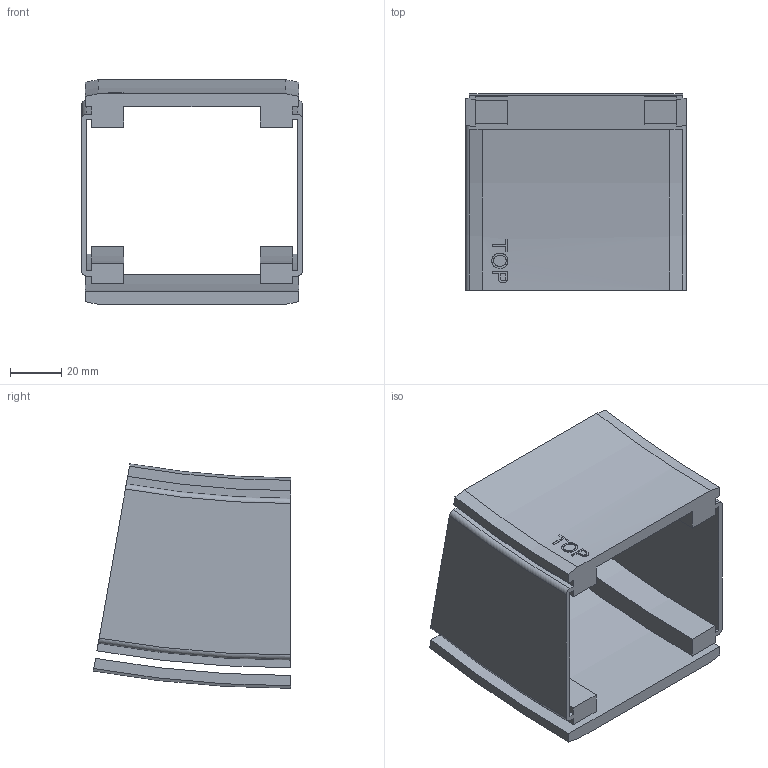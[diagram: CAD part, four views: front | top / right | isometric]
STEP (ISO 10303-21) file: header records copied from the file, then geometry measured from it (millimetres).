
FILE_DESCRIPTION(/* description */ ('VERTIKALKURVA S530 R400'),/* implementation_level */ '2;1');
FILE_NAME(/* name */ '530-5645+830-2000-UPP-01.stp',/* time_stamp */ '2022-09-21T07:02:46+02:00',/* author */ ('Mathias.Dore'),/* organization */ (''),/* preprocessor_version */ 'ST-DEVELOPER v19.2',/* originating_system */ 'Autodesk Inventor 2023',/* authorisation */ '');
FILE_SCHEMA (('AUTOMOTIVE_DESIGN { 1 0 10303 214 3 1 1 }'));
Length unit declared in the file: millimetre
Products named in the file (1): 530-5645+830-2000-UPP-01
Bounding box: 86 x 76.84 x 87.48 mm (x, y, z)
Volume: 103853.8 mm3; surface area: 53563 mm2
Topology: 2 solids, 2 shells, 87 faces, 234 edges, 156 vertices
Faces by surface type: plane 40, cylinder 25, bspline 14, cone 4, torus 4
Entity records: 7333 total; most frequent: CARTESIAN_POINT 5134, ORIENTED_EDGE 468, DIRECTION 408, EDGE_CURVE 234, VERTEX_POINT 156, AXIS2_PLACEMENT_3D 141, LINE 126, VECTOR 126
